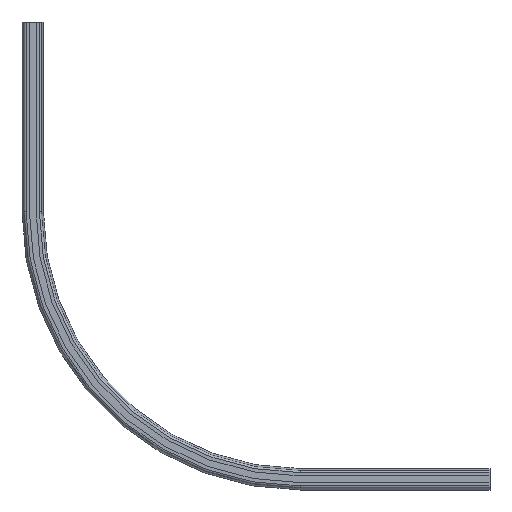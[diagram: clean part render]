
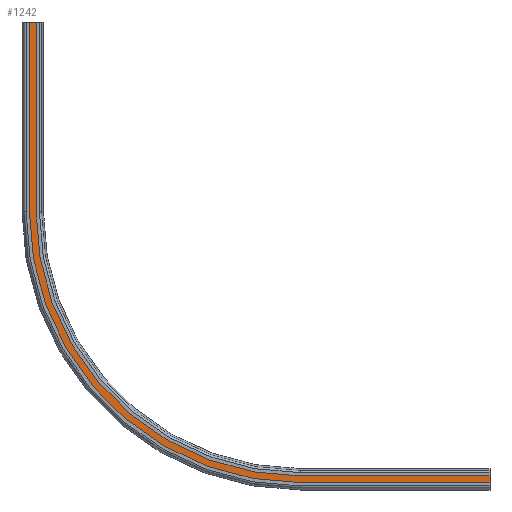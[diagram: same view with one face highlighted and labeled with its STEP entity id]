
A CAD part, front view. The second image highlights one B-rep face of the part: STEP entity #1242.
In plain terms, the highlighted planar face has unit normal (0, -1, 0).
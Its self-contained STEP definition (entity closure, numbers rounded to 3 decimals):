
#43=PLANE('',#1385);
#108=FACE_OUTER_BOUND('',#182,.T.);
#182=EDGE_LOOP('',(#991,#992,#993,#994,#995,#996,#997,#998));
#212=LINE('',#1849,#320);
#214=LINE('',#1859,#322);
#272=LINE('',#2100,#380);
#273=LINE('',#2104,#381);
#274=LINE('',#2105,#382);
#275=LINE('',#2106,#383);
#320=VECTOR('',#1438,426.);
#322=VECTOR('',#1448,426.);
#380=VECTOR('',#1716,426.);
#381=VECTOR('',#1721,426.);
#382=VECTOR('',#1722,29.6);
#383=VECTOR('',#1723,29.6);
#452=CIRCLE('',#1324,614.8);
#456=CIRCLE('',#1329,585.2);
#505=VERTEX_POINT('',#1846);
#506=VERTEX_POINT('',#1848);
#507=VERTEX_POINT('',#1852);
#510=VERTEX_POINT('',#1857);
#559=VERTEX_POINT('',#1995);
#561=VERTEX_POINT('',#2001);
#588=VERTEX_POINT('',#2099);
#589=VERTEX_POINT('',#2103);
#619=EDGE_CURVE('',#506,#505,#212,.T.);
#624=EDGE_CURVE('',#510,#507,#214,.T.);
#690=EDGE_CURVE('',#559,#506,#452,.T.);
#694=EDGE_CURVE('',#561,#510,#456,.T.);
#742=EDGE_CURVE('',#588,#559,#272,.T.);
#744=EDGE_CURVE('',#589,#561,#273,.T.);
#745=EDGE_CURVE('',#588,#589,#274,.T.);
#746=EDGE_CURVE('',#505,#507,#275,.T.);
#991=ORIENTED_EDGE('',*,*,#744,.F.);
#992=ORIENTED_EDGE('',*,*,#745,.F.);
#993=ORIENTED_EDGE('',*,*,#742,.T.);
#994=ORIENTED_EDGE('',*,*,#690,.T.);
#995=ORIENTED_EDGE('',*,*,#619,.T.);
#996=ORIENTED_EDGE('',*,*,#746,.T.);
#997=ORIENTED_EDGE('',*,*,#624,.F.);
#998=ORIENTED_EDGE('',*,*,#694,.F.);
#1242=ADVANCED_FACE('',(#108),#43,.T.);
#1324=AXIS2_PLACEMENT_3D('',#1996,#1581,#1582);
#1329=AXIS2_PLACEMENT_3D('',#2003,#1591,#1592);
#1385=AXIS2_PLACEMENT_3D('',#2102,#1719,#1720);
#1438=DIRECTION('',(1.,0.,0.));
#1448=DIRECTION('',(1.,0.,0.));
#1581=DIRECTION('center_axis',(0.,-1.,0.));
#1582=DIRECTION('ref_axis',(0.,0.,1.));
#1591=DIRECTION('center_axis',(0.,-1.,0.));
#1592=DIRECTION('ref_axis',(0.,0.,1.));
#1716=DIRECTION('',(0.,0.,-1.));
#1719=DIRECTION('center_axis',(0.,-1.,0.));
#1720=DIRECTION('ref_axis',(0.,0.,-1.));
#1721=DIRECTION('',(0.,0.,-1.));
#1722=DIRECTION('',(1.,0.,0.));
#1723=DIRECTION('',(0.,0.,1.));
#1846=CARTESIAN_POINT('',(1026.,-3.2,-1040.8));
#1848=CARTESIAN_POINT('',(600.,-3.2,-1040.8));
#1849=CARTESIAN_POINT('',(600.,-3.2,-1040.8));
#1852=CARTESIAN_POINT('',(1026.,-3.2,-1011.2));
#1857=CARTESIAN_POINT('',(600.,-3.2,-1011.2));
#1859=CARTESIAN_POINT('',(600.,-3.2,-1011.2));
#1995=CARTESIAN_POINT('',(-14.8,-3.2,-426.));
#1996=CARTESIAN_POINT('Origin',(600.,-3.2,-426.));
#2001=CARTESIAN_POINT('',(14.8,-3.2,-426.));
#2003=CARTESIAN_POINT('Origin',(600.,-3.2,-426.));
#2099=CARTESIAN_POINT('',(-14.8,-3.2,0.));
#2100=CARTESIAN_POINT('',(-14.8,-3.2,0.));
#2102=CARTESIAN_POINT('Origin',(-14.8,-3.2,0.));
#2103=CARTESIAN_POINT('',(14.8,-3.2,0.));
#2104=CARTESIAN_POINT('',(14.8,-3.2,0.));
#2105=CARTESIAN_POINT('',(-14.8,-3.2,0.));
#2106=CARTESIAN_POINT('',(1026.,-3.2,-1040.8));
